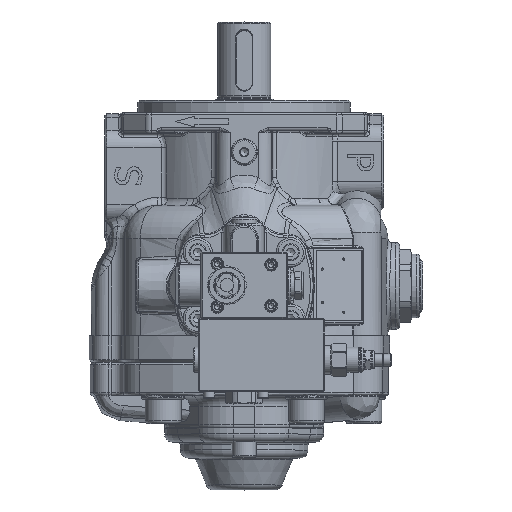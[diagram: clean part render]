
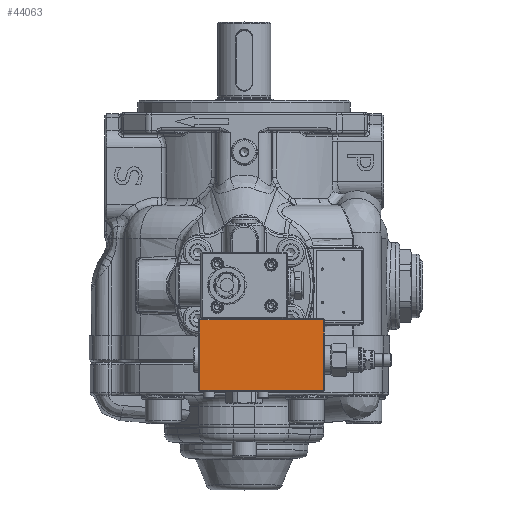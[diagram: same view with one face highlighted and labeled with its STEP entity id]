
A CAD part, top view. The second image highlights one B-rep face of the part: STEP entity #44063.
In plain terms, the highlighted planar face has unit normal (0, 0, 1).
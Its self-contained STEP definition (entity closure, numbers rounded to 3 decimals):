
#4046=LINE('',#90330,#6532);
#4047=LINE('',#90332,#6533);
#4048=LINE('',#90334,#6534);
#4049=LINE('',#90335,#6535);
#6532=VECTOR('',#58343,10.);
#6533=VECTOR('',#58344,10.);
#6534=VECTOR('',#58345,10.);
#6535=VECTOR('',#58346,10.);
#7676=PLANE('',#48158);
#9979=FACE_OUTER_BOUND('',#12601,.T.);
#12601=EDGE_LOOP('',(#36976,#36977,#36978,#36979));
#19670=VERTEX_POINT('',#90328);
#19671=VERTEX_POINT('',#90329);
#19672=VERTEX_POINT('',#90331);
#19673=VERTEX_POINT('',#90333);
#25600=EDGE_CURVE('',#19670,#19671,#4046,.T.);
#25601=EDGE_CURVE('',#19672,#19670,#4047,.T.);
#25602=EDGE_CURVE('',#19673,#19672,#4048,.T.);
#25603=EDGE_CURVE('',#19671,#19673,#4049,.T.);
#36976=ORIENTED_EDGE('',*,*,#25600,.F.);
#36977=ORIENTED_EDGE('',*,*,#25601,.F.);
#36978=ORIENTED_EDGE('',*,*,#25602,.F.);
#36979=ORIENTED_EDGE('',*,*,#25603,.F.);
#44063=ADVANCED_FACE('',(#9979),#7676,.T.);
#48158=AXIS2_PLACEMENT_3D('',#90327,#58341,#58342);
#58341=DIRECTION('center_axis',(0.,0.,
1.));
#58342=DIRECTION('ref_axis',(0.,1.,0.));
#58343=DIRECTION('',(-1.,0.,0.));
#58344=DIRECTION('',(0.,-1.,0.));
#58345=DIRECTION('',(1.,0.,0.));
#58346=DIRECTION('',(0.,1.,0.));
#90327=CARTESIAN_POINT('Origin',(64.311,-119.312,236.499));
#90328=CARTESIAN_POINT('',(63.311,-118.312,236.499));
#90329=CARTESIAN_POINT('',(-29.689,-118.312,236.499));
#90330=CARTESIAN_POINT('',(40.561,-118.312,236.499));
#90331=CARTESIAN_POINT('',(63.311,-65.312,236.499));
#90332=CARTESIAN_POINT('',(63.311,-119.312,236.499));
#90333=CARTESIAN_POINT('',(-29.689,-65.312,236.499));
#90334=CARTESIAN_POINT('',(40.561,-65.312,236.499));
#90335=CARTESIAN_POINT('',(-29.689,-119.312,236.499));
